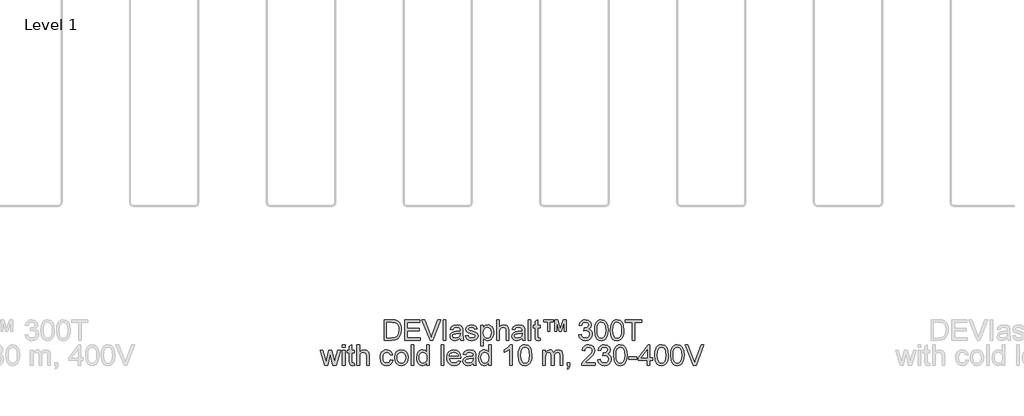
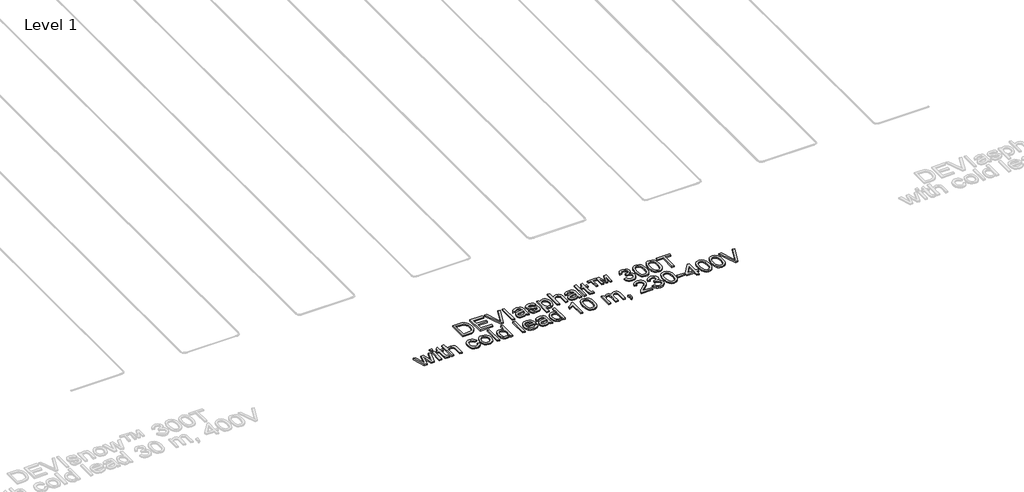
# One storey, part 18 of 26: 1 proxy.
"""IFC4 building model written with IfcOpenShell, lengths in millimetres."""

import ifcopenshell
import ifcopenshell.guid

model = None  # the IFC model being written
_history = None  # IfcOwnerHistory: only IFC2X3 demands one
_inside = {}  # id of a spatial element -> (the spatial element, [elements in it])
_under = {}  # id of a project, library or spatial element -> (it, [spatial elements below it])
_declared = {}  # id of a project -> (the project, [libraries it declares])
_typed = {}  # id of a type object -> (the type object, [elements of that type])
_made_of = {}  # id of a material, layer set ... -> (it, [elements and type objects made of it])


def new_model(schema):
    """Start an empty IFC model of exactly this schema.

    Asked for "IFC4X3", IfcOpenShell would pick the latest addendum, in which some entities
    have other attributes; the version numbers below select the first issue.
    IFC2X3 requires an IfcOwnerHistory on every rooted entity: one is made here for all.
    """
    global model, _history
    if schema == "IFC4X3":
        model = ifcopenshell.file(schema_version=(4, 3, 0, 0))
    else:
        model = ifcopenshell.file(schema=schema)
    _inside.clear()
    _under.clear()
    _declared.clear()
    _typed.clear()
    _made_of.clear()
    _history = None
    if model.schema == "IFC2X3":
        org = make("IfcOrganization", Name="unknown")
        user = make(
            "IfcPersonAndOrganization",
            ThePerson=make("IfcPerson", FamilyName="unknown"),
            TheOrganization=org,
        )
        app = make(
            "IfcApplication",
            ApplicationDeveloper=org,
            Version="unknown",
            ApplicationFullName="unknown",
            ApplicationIdentifier="unknown",
        )
        _history = make(
            "IfcOwnerHistory",
            OwningUser=user,
            OwningApplication=app,
            ChangeAction="ADDED",
            CreationDate=0,
        )
    return model


def make(cls, **values):
    """One entity of the class cls with the attributes given. An attribute that is None is left unset."""
    return model.create_entity(
        cls, **{name: value for name, value in values.items() if value is not None}
    )


def rooted(cls, **values):
    """An entity with a GlobalId (a new one), such as an element, a storey or a relation."""
    return make(cls, GlobalId=ifcopenshell.guid.new(), OwnerHistory=_history, **values)


def si_unit(unit_type, name, prefix=None):
    """IfcSIUnit, for example si_unit("LENGTHUNIT", "METRE", prefix="MILLI")."""
    return make("IfcSIUnit", UnitType=unit_type, Prefix=prefix, Name=name)


def assignment(units):
    """IfcUnitAssignment: the units of a project."""
    return None if units is None else make("IfcUnitAssignment", Units=units)


def point(xyz):
    """IfcCartesianPoint."""
    return None if xyz is None else make("IfcCartesianPoint", Coordinates=xyz)


def direction(xyz):
    """IfcDirection."""
    return None if xyz is None else make("IfcDirection", DirectionRatios=xyz)


def frame(location, z_axis=None, x_axis=None):
    """IfcAxis2Placement3D, a coordinate frame: its origin and axes. An axis left out is left unset."""
    return make(
        "IfcAxis2Placement3D",
        Location=point(location),
        Axis=direction(z_axis),
        RefDirection=direction(x_axis),
    )


def origin():
    """The frame at (0, 0, 0) with its axes left unset."""
    return frame((0.0, 0.0, 0.0))


def origin_with_axes():
    """The frame at (0, 0, 0) with the z axis (0, 0, 1) and the x axis (1, 0, 0) written out."""
    return frame((0.0, 0.0, 0.0), z_axis=(0.0, 0.0, 1.0), x_axis=(1.0, 0.0, 0.0))


def place(relative_to, where):
    """IfcLocalPlacement: puts the frame where relative to a parent placement (None: the world)."""
    return make(
        "IfcLocalPlacement", PlacementRelTo=relative_to, RelativePlacement=where
    )


def context(
    kind, dimensions, precision=None, world=None, true_north=None, identifier=None
):
    """IfcGeometricRepresentationContext, for example the 3D "Model" context."""
    return make(
        "IfcGeometricRepresentationContext",
        ContextIdentifier=identifier,
        ContextType=kind,
        CoordinateSpaceDimension=dimensions,
        Precision=precision,
        WorldCoordinateSystem=world,
        TrueNorth=true_north,
    )


def project(units=None, contexts=None):
    """IfcProject with its units and contexts."""
    return rooted(
        "IfcProject",
        Name="project",
        RepresentationContexts=contexts,
        UnitsInContext=assignment(units),
    )


def spatial(cls, under=None, at=None, **own):
    """A site, building, storey or space (cls), placed at a placement, below another one or the project."""
    s = rooted(cls, ObjectPlacement=at, **own)
    if under is not None:
        _under.setdefault(under.id(), (under, []))[1].append(s)
    return s


def polyline(points):
    """IfcPolyline through the points."""
    return make("IfcPolyline", Points=[point(p) for p in points])


def outline(outer, holes=None, kind="AREA"):
    """IfcArbitraryClosedProfileDef: a profile drawn as a closed curve; with holes, ...WithVoids."""
    if holes is None:
        return make("IfcArbitraryClosedProfileDef", ProfileType=kind, OuterCurve=outer)
    return make(
        "IfcArbitraryProfileDefWithVoids",
        ProfileType=kind,
        OuterCurve=outer,
        InnerCurves=holes,
    )


def extrude(swept, where, along, depth):
    """IfcExtrudedAreaSolid: the profile swept, set in the frame where, extruded along a direction by depth."""
    return make(
        "IfcExtrudedAreaSolid",
        SweptArea=swept,
        Position=where,
        ExtrudedDirection=direction(along),
        Depth=depth,
    )


def shape(context_of_items, identifier, shape_type, items):
    """IfcShapeRepresentation: the items that make up one representation, for example the "Body"."""
    return make(
        "IfcShapeRepresentation",
        ContextOfItems=context_of_items,
        RepresentationIdentifier=identifier,
        RepresentationType=shape_type,
        Items=items,
    )


def made_of(thing, what):
    """Note that an element or type object is made of a material, layer set ...; save() writes the relation."""
    if what is not None:
        _made_of.setdefault(what.id(), (what, []))[1].append(thing)
    return thing


def element(
    cls,
    number,
    at=None,
    inside=None,
    cuts=None,
    type_object=None,
    material=None,
    context=None,
    identifier="Body",
    shape_type=None,
    held_by="IfcProductDefinitionShape",
    body=None,
    shapes=None,
    **own,
):
    """One element of the class cls, such as IfcWall. Its Tag is "e" and its number.

    at: its placement. inside: the storey or other place that contains it. cuts: it is an
    opening in that element (IfcRelVoidsElement). A single representation is given by context,
    identifier, shape_type and body (its items); several are given by shapes. held_by: the class
    of the entity that holds the representations. save() writes the other relations.
    """
    e = rooted(cls, Tag="e%d" % number, ObjectPlacement=at, **own)
    if body is not None:
        shapes = [shape(context, identifier, shape_type, body)]
    if shapes is not None:
        e.Representation = make(held_by, Representations=shapes)
    if inside is not None:
        _inside.setdefault(inside.id(), (inside, []))[1].append(e)
    if cuts is not None:
        rooted(
            "IfcRelVoidsElement", RelatingBuildingElement=cuts, RelatedOpeningElement=e
        )
    if type_object is not None:
        _typed.setdefault(type_object.id(), (type_object, []))[1].append(e)
    return made_of(e, material)


def aggregate(whole, parts):
    """IfcRelAggregates: a whole, such as a stair, and the parts it consists of."""
    return rooted("IfcRelAggregates", RelatingObject=whole, RelatedObjects=parts)


def save(model, path):
    """Write the relations noted so far, then the file.

    IfcRelAggregates (storeys below a building ...), IfcRelContainedInSpatialStructure (elements
    in a storey), IfcRelDefinesByType, IfcRelAssociatesMaterial and IfcRelDeclares: one each for
    every whole, place, type object, material and project.
    """
    for whole, parts in _under.values():
        aggregate(whole, parts)
    for where, things in _inside.values():
        rooted(
            "IfcRelContainedInSpatialStructure",
            RelatedElements=things,
            RelatingStructure=where,
        )
    for kind, things in _typed.values():
        rooted("IfcRelDefinesByType", RelatedObjects=things, RelatingType=kind)
    for what, things in _made_of.values():
        rooted("IfcRelAssociatesMaterial", RelatedObjects=things, RelatingMaterial=what)
    for by, libraries in _declared.values():
        rooted("IfcRelDeclares", RelatingContext=by, RelatedDefinitions=libraries)
    model.write(path)


model = new_model("IFC4")

# Units and contexts
model_context = context("Model", 3, world=origin())
ifc_project = project(units=[si_unit("LENGTHUNIT", "METRE", prefix="MILLI")], contexts=[model_context])

# Site, building, storey
site = spatial("IfcSite", under=ifc_project)
building = spatial("IfcBuilding", under=site)
storey = spatial("IfcBuildingStorey", under=building, Name="Level 1", Elevation=0.0)

# Proxy
placement = place(None, origin())
element("IfcBuildingElementProxy", 1, Name="150mm", ObjectType="150mm", at=placement, inside=storey, context=model_context, shape_type="SweptSolid", body=[
    extrude(outline(polyline([(17271.9779866, -27720.7202), (17271.9779866, -27570.0357347), (17323.9597125, -27570.0357347), (17350.8518863, -27572.2062385), (17372.9983824, -27582.985181), (17383.4186399, -27594.4630992), (17390.8406592, -27608.7369206), (17395.2828343, -27625.5307337), (17396.7635593, -27644.568627), (17392.7536456, -27674.9740739), (17382.4529497, -27696.9182349), (17368.6941631, -27710.585051), (17350.6863394, -27718.145026), (17326.46131, -27720.7202), (17271.9779866, -27720.7202)]), holes=[polyline([(17290.8135447, -27701.8846418), (17324.1436535, -27701.8846418), (17348.387077, -27699.162315), (17362.3665928, -27691.4735813), (17373.8261169, -27672.7667819), (17377.9280012, -27644.2743214), (17375.9184458, -27623.746506), (17369.8897796, -27608.5897678), (17360.9824368, -27598.1787074), (17350.3368515, -27591.8879252), (17323.6286187, -27588.8712929), (17290.8135447, -27588.8712929), (17290.8135447, -27701.8846418)])]), origin_with_axes(), (0.0, 0.0, 1.0), 10.0),
    extrude(outline(polyline([(17422.6624518, -27720.7202), (17422.6624518, -27570.0357347), (17530.9669112, -27570.0357347), (17530.9669112, -27588.8712929), (17441.4980099, -27588.8712929), (17441.4980099, -27633.6057435), (17526.2580216, -27633.6057435), (17526.2580216, -27652.4413017), (17441.4980099, -27652.4413017), (17441.4980099, -27701.8846418), (17533.3213559, -27701.8846418), (17533.3213559, -27720.7202), (17422.6624518, -27720.7202)])), origin_with_axes(), (0.0, 0.0, 1.0), 10.0),
    extrude(outline(polyline([(17606.0884146, -27720.7202), (17546.1236494, -27570.0357347), (17566.2835827, -27570.0357347), (17606.4195084, -27678.5977115), (17614.5497005, -27703.0618642), (17622.569528, -27678.5977115), (17662.8158182, -27570.0357347), (17682.9757516, -27570.0357347), (17625.5493721, -27720.7202), (17606.0884146, -27720.7202)])), origin_with_axes(), (0.0, 0.0, 1.0), 10.0),
    extrude(outline(polyline([(17702.8413793, -27720.7202), (17702.8413793, -27570.0357347), (17721.6769375, -27570.0357347), (17721.6769375, -27720.7202), (17702.8413793, -27720.7202)])), origin_with_axes(), (0.0, 0.0, 1.0), 10.0),
    extrude(outline(polyline([(17827.6269521, -27706.5935313), (17809.361611, -27719.3590366), (17789.1832836, -27723.0746447), (17773.4425327, -27720.8397616), (17761.8312572, -27714.1351122), (17754.6713539, -27703.953978), (17752.2847195, -27691.2896403), (17755.889963, -27676.3904195), (17765.3629244, -27665.5746889), (17778.5514939, -27659.3942714), (17794.8486663, -27656.56158), (17827.5165875, -27650.0868569), (17827.6269521, -27645.8930021), (17826.330168, -27637.4868985), (17822.4398159, -27631.9870627), (17813.7394068, -27627.9035726), (17801.617695, -27626.5424092), (17782.5614077, -27630.1660468), (17773.4747224, -27643.0235226), (17754.6391642, -27640.6690778), (17762.7877504, -27622.274978), (17779.1952874, -27611.4960356), (17804.0457162, -27607.706851), (17826.872794, -27611.0545772), (17839.7670579, -27619.4606808), (17845.5428052, -27632.2445801), (17846.4625102, -27648.7256935), (17846.4625102, -27672.1597766), (17847.4190034, -27704.8828801), (17851.1713998, -27720.7202), (17832.3358416, -27720.7202), (17827.6269521, -27706.5935313)]), holes=[polyline([(17827.6269521, -27668.922415), (17797.2398993, -27674.6981624), (17781.0346974, -27677.7515829), (17773.6954516, -27682.7179899), (17771.1202776, -27689.9652652), (17776.730478, -27700.1555964), (17793.1931973, -27704.2390866), (17812.2494847, -27699.7325321), (17824.5367433, -27688.824831), (17827.5165875, -27674.256704), (17827.6269521, -27668.922415)])]), origin_with_axes(), (0.0, 0.0, 1.0), 10.0),
    extrude(outline(polyline([(17865.2980684, -27687.7579732), (17884.1336265, -27685.4035284), (17887.1042736, -27693.4601441), (17892.8524298, -27699.3830442), (17912.8284222, -27704.2390866), (17932.0318623, -27699.7877144), (17938.2858562, -27689.3398658), (17936.7131607, -27684.5390057), (17931.9950741, -27680.8785799), (17912.607693, -27675.5075028), (17884.2439911, -27666.2920588), (17871.864762, -27655.5315104), (17867.6525131, -27640.337984), (17871.0370275, -27626.3032859), (17880.2708656, -27615.5795257), (17892.2454245, -27610.0061135), (17908.4506264, -27607.706851), (17931.3696747, -27611.4040651), (17945.9378017, -27621.4104554), (17952.4125248, -27638.314633), (17933.5769667, -27640.6690778), (17926.4952383, -27630.2764114), (17909.9221544, -27626.5424092), (17891.8959366, -27630.1108645), (17886.4880713, -27638.4249976), (17888.7321515, -27643.9064394), (17895.7586976, -27648.0635059), (17911.9822936, -27652.0734197), (17939.6286255, -27660.9393757), (17952.4677071, -27670.9825542), (17957.1214144, -27687.353303), (17951.6583667, -27705.3795208), (17935.8946233, -27718.4577257), (17912.5709048, -27723.0746447), (17893.5789968, -27720.8489587), (17879.7190426, -27714.1719004), (17870.4668104, -27703.1170465), (17865.2980684, -27687.7579732)])), origin_with_axes(), (0.0, 0.0, 1.0), 10.0),
    extrude(outline(polyline([(17978.3114173, -27763.1002058), (17978.3114173, -27610.0612958), (17997.1469755, -27610.0612958), (17997.1469755, -27628.528972), (18010.1699981, -27612.9123813), (18027.7547575, -27607.706851), (18040.4926715, -27609.5278669), (18051.6302989, -27614.9909145), (18060.6985901, -27623.7649001), (18067.2284955, -27635.5187299), (18072.4892081, -27664.5446193), (18071.0038845, -27680.6532522), (18066.5479138, -27695.0604308), (18059.2638503, -27707.0349897), (18049.2942483, -27715.8457635), (18037.6829728, -27721.2674244), (18025.4738891, -27723.0746447), (18009.0847462, -27718.2369965), (17997.1469755, -27706.0049202), (17997.1469755, -27763.1002058), (17978.3114173, -27763.1002058)]), holes=[polyline([(17997.1469755, -27666.2736647), (17999.184122, -27683.1594483), (18005.2955616, -27694.9684603), (18014.3132691, -27701.92143), (18025.0692189, -27704.2390866), (18035.9999127, -27701.8386566), (18045.2475463, -27694.6373665), (18051.552124, -27682.3960931), (18053.6536499, -27664.8757131), (18051.6027078, -27648.0819), (18045.4498814, -27636.1073411), (18036.4459696, -27628.9336422), (18025.8417711, -27626.5424092), (18015.1961858, -27629.0853935), (18005.8473846, -27636.7143464), (17999.3220777, -27649.1901445), (17997.1469755, -27666.2736647)])]), origin_with_axes(), (0.0, 0.0, 1.0), 10.0),
    extrude(outline(polyline([(18093.679211, -27720.7202), (18093.679211, -27570.0357347), (18112.5147691, -27570.0357347), (18112.5147691, -27625.4387632), (18127.2024578, -27612.1398291), (18145.2930549, -27607.706851), (18166.4462696, -27612.5444993), (18179.2853513, -27625.9170098), (18183.1481122, -27650.6754681), (18183.1481122, -27720.7202), (18164.3125541, -27720.7202), (18164.3125541, -27652.6252427), (18162.8134349, -27640.8346247), (18158.3160775, -27632.7596149), (18151.0688022, -27628.0967106), (18141.3199294, -27626.5424092), (18125.8872797, -27630.7362639), (18115.5865838, -27642.1038176), (18112.5147691, -27661.9326571), (18112.5147691, -27720.7202), (18093.679211, -27720.7202)])), origin_with_axes(), (0.0, 0.0, 1.0), 10.0),
    extrude(outline(polyline([(18279.6803477, -27706.5935313), (18261.4150067, -27719.3590366), (18241.2366793, -27723.0746447), (18225.4959284, -27720.8397616), (18213.8846529, -27714.1351122), (18206.7247496, -27703.953978), (18204.3381151, -27691.2896403), (18207.9433587, -27676.3904195), (18217.4163201, -27665.5746889), (18230.6048896, -27659.3942714), (18246.902062, -27656.56158), (18279.5699831, -27650.0868569), (18279.6803477, -27645.8930021), (18278.3835637, -27637.4868985), (18274.4932116, -27631.9870627), (18265.7928024, -27627.9035726), (18253.6710907, -27626.5424092), (18234.6148033, -27630.1660468), (18225.5281181, -27643.0235226), (18206.6925599, -27640.6690778), (18214.8411461, -27622.274978), (18231.2486831, -27611.4960356), (18256.0991119, -27607.706851), (18278.9261897, -27611.0545772), (18291.8204536, -27619.4606808), (18297.5962009, -27632.2445801), (18298.5159059, -27648.7256935), (18298.5159059, -27672.1597766), (18299.4723991, -27704.8828801), (18303.2247954, -27720.7202), (18284.3892373, -27720.7202), (18279.6803477, -27706.5935313)]), holes=[polyline([(18279.6803477, -27668.922415), (18249.2932949, -27674.6981624), (18233.0880931, -27677.7515829), (18225.7488473, -27682.7179899), (18223.1736733, -27689.9652652), (18228.7838737, -27700.1555964), (18245.246593, -27704.2390866), (18264.3028803, -27699.7325321), (18276.590139, -27688.824831), (18279.5699831, -27674.256704), (18279.6803477, -27668.922415)])]), origin_with_axes(), (0.0, 0.0, 1.0), 10.0),
    extrude(outline(polyline([(18324.4147984, -27720.7202), (18324.4147984, -27570.0357347), (18343.2503565, -27570.0357347), (18343.2503565, -27720.7202), (18324.4147984, -27720.7202)])), origin_with_axes(), (0.0, 0.0, 1.0), 10.0),
    extrude(outline(polyline([(18411.5292548, -27705.0116388), (18413.8836996, -27721.272023), (18399.7938192, -27723.0746447), (18384.0116816, -27719.9476478), (18376.1390069, -27711.7438793), (18373.8581385, -27690.3699354), (18373.8581385, -27628.896854), (18359.7314699, -27628.896854), (18359.7314699, -27610.0612958), (18373.8581385, -27610.0612958), (18373.8581385, -27583.169122), (18392.6936967, -27572.0958739), (18392.6936967, -27610.0612958), (18411.5292548, -27610.0612958), (18411.5292548, -27628.896854), (18392.6936967, -27628.896854), (18392.6936967, -27689.8181124), (18393.6869781, -27699.530197), (18396.9059455, -27702.9698937), (18403.3254863, -27704.2390866), (18411.5292548, -27705.0116388)])), origin_with_axes(), (0.0, 0.0, 1.0), 10.0),
    extrude(outline(polyline([(18465.6814845, -27654.7957464), (18465.6814845, -27584.1624033), (18437.4281473, -27584.1624033), (18437.4281473, -27570.0357347), (18508.0614904, -27570.0357347), (18508.0614904, -27584.1624033), (18479.8081531, -27584.1624033), (18479.8081531, -27654.7957464), (18465.6814845, -27654.7957464)])), origin_with_axes(), (0.0, 0.0, 1.0), 10.0),
    extrude(outline(polyline([(18517.4792694, -27654.7957464), (18517.4792694, -27570.0357347), (18538.3749668, -27570.0357347), (18559.9328517, -27638.0939038), (18581.2332192, -27570.0357347), (18602.2392811, -27570.0357347), (18602.2392811, -27654.7957464), (18588.1126125, -27654.7957464), (18588.1126125, -27585.1924729), (18566.9226096, -27654.7957464), (18552.795941, -27654.7957464), (18531.605938, -27584.1624033), (18531.605938, -27654.7957464), (18517.4792694, -27654.7957464)])), origin_with_axes(), (0.0, 0.0, 1.0), 10.0),
    extrude(outline(polyline([(18694.0626271, -27680.6946389), (18712.8981853, -27678.3401941), (18717.1150326, -27690.1767973), (18723.2908516, -27698.1690337), (18731.7291449, -27702.7215733), (18742.7334151, -27704.2390866), (18755.6460731, -27702.1513563), (18765.6156752, -27695.8881653), (18771.9892307, -27686.5439626), (18774.1137493, -27675.2131972), (18772.0076248, -27664.4572473), (18765.6892516, -27655.7338455), (18756.1243197, -27649.9534997), (18744.2785195, -27648.0267177), (18731.0715558, -27650.0868569), (18733.1684832, -27631.2512987), (18736.1851156, -27631.4720279), (18757.5590595, -27626.0641626), (18764.6775761, -27619.2031634), (18767.050415, -27609.4358964), (18765.3305666, -27601.3011058), (18760.1710216, -27594.7022225), (18752.298347, -27590.3290253), (18742.4391095, -27588.8712929), (18732.5614779, -27590.3428209), (18724.4864681, -27594.7574048), (18718.5911591, -27602.1150447), (18715.25263, -27612.4157406), (18696.4170719, -27610.0612958), (18701.962893, -27593.1479211), (18711.8313275, -27580.5203716), (18725.3325967, -27572.6568939), (18741.7769219, -27570.0357347), (18764.4936351, -27575.2044768), (18780.3861373, -27589.3311454), (18785.8859731, -27608.3322504), (18780.6620488, -27625.6962806), (18765.211005, -27638.1674802), (18777.0016229, -27642.9315521), (18785.7388203, -27651.0433501), (18791.1466856, -27662.0614158), (18792.9493074, -27675.544291), (18789.3440639, -27693.9016025), (18778.5283332, -27709.2422817), (18762.2035697, -27719.616554), (18742.0712275, -27723.0746447), (18723.8610687, -27720.1223917), (18709.0354243, -27711.2656327), (18698.7255314, -27697.7183782), (18694.0626271, -27680.6946389)])), origin_with_axes(), (0.0, 0.0, 1.0), 10.0),
    extrude(outline(polyline([(18809.4304208, -27646.5919779), (18810.8145768, -27622.4727146), (18814.9670448, -27603.2370848), (18821.8464381, -27588.5907829), (18831.41137, -27578.2395032), (18843.7308183, -27572.0866769), (18858.873761, -27570.0357347), (18880.8731043, -27574.8917771), (18896.0666307, -27588.889687), (18904.8957986, -27611.1833359), (18908.3171011, -27646.5919779), (18906.9467407, -27670.5732855), (18902.8356594, -27689.7629301), (18895.9976528, -27704.4230276), (18886.4465165, -27714.8156939), (18874.099477, -27721.009907), (18858.873761, -27723.0746447), (18839.3024388, -27719.4877953), (18824.4400062, -27708.7272469), (18813.1828172, -27683.2422217), (18809.4304208, -27646.5919779)]), holes=[polyline([(18828.265979, -27646.5551897), (18830.4732709, -27676.1834859), (18837.0951468, -27693.3313854), (18846.9543843, -27701.5121613), (18858.873761, -27704.2390866), (18870.7931376, -27701.5029642), (18880.6523751, -27693.2945972), (18887.274251, -27676.1375007), (18889.481543, -27646.5551897), (18887.3478274, -27617.5936797), (18880.9466807, -27600.3124229), (18871.1058373, -27591.7315754), (18858.6530318, -27588.8712929), (18846.8624138, -27591.3912846), (18837.3894524, -27598.9512596), (18830.5468473, -27617.3085711), (18828.265979, -27646.5551897)])]), origin_with_axes(), (0.0, 0.0, 1.0), 10.0),
    extrude(outline(polyline([(18924.7982145, -27646.5919779), (18926.1823705, -27622.4727146), (18930.3348385, -27603.2370848), (18937.2142318, -27588.5907829), (18946.7791637, -27578.2395032), (18959.098612, -27572.0866769), (18974.2415546, -27570.0357347), (18996.240898, -27574.8917771), (19011.4344244, -27588.889687), (19020.2635922, -27611.1833359), (19023.6848948, -27646.5919779), (19022.3145344, -27670.5732855), (19018.2034531, -27689.7629301), (19011.3654465, -27704.4230276), (19001.8143102, -27714.8156939), (18989.4672707, -27721.009907), (18974.2415546, -27723.0746447), (18954.6702325, -27719.4877953), (18939.8077999, -27708.7272469), (18928.5506108, -27683.2422217), (18924.7982145, -27646.5919779)]), holes=[polyline([(18943.6337726, -27646.5551897), (18945.8410646, -27676.1834859), (18952.4629405, -27693.3313854), (18962.322178, -27701.5121613), (18974.2415546, -27704.2390866), (18986.1609313, -27701.5029642), (18996.0201688, -27693.2945972), (19002.6420447, -27676.1375007), (19004.8493366, -27646.5551897), (19002.7156211, -27617.5936797), (18996.3144744, -27600.3124229), (18986.473631, -27591.7315754), (18974.0208254, -27588.8712929), (18962.2302075, -27591.3912846), (18952.7572461, -27598.9512596), (18945.914641, -27617.3085711), (18943.6337726, -27646.5551897)])]), origin_with_axes(), (0.0, 0.0, 1.0), 10.0),
    extrude(outline(polyline([(19084.9004588, -27720.7202), (19084.9004588, -27588.8712929), (19035.4571186, -27588.8712929), (19035.4571186, -27570.0357347), (19153.1793571, -27570.0357347), (19153.1793571, -27588.8712929), (19103.7360169, -27588.8712929), (19103.7360169, -27720.7202), (19084.9004588, -27720.7202)])), origin_with_axes(), (0.0, 0.0, 1.0), 10.0),
    extrude(outline(polyline([(16835.9274577, -27903.6824267), (16802.2662551, -27793.0235226), (16821.8375773, -27793.0235226), (16840.9306528, -27857.5868127), (16846.6328237, -27880.6530138), (16851.3049251, -27858.4329413), (16866.4984515, -27793.0235226), (16888.9392532, -27793.0235226), (16904.0592032, -27858.2490003), (16908.2162697, -27878.3721455), (16914.1759581, -27857.1453543), (16933.3058218, -27793.0235226), (16952.9507203, -27793.0235226), (16919.0320004, -27903.6824267), (16896.2601049, -27903.6824267), (16881.8023425, -27838.7880428), (16877.6084877, -27818.554533), (16858.9568706, -27903.6824267), (16835.9274577, -27903.6824267)])), origin_with_axes(), (0.0, 0.0, 1.0), 10.0),
    extrude(outline(polyline([(16965.9001666, -27771.8335197), (16965.9001666, -27752.9979615), (16984.7357247, -27752.9979615), (16984.7357247, -27771.8335197), (16965.9001666, -27771.8335197)])), origin_with_axes(), (0.0, 0.0, 1.0), 10.0),
    extrude(outline(polyline([(16965.9001666, -27903.6824267), (16965.9001666, -27793.0235226), (16984.7357247, -27793.0235226), (16984.7357247, -27903.6824267), (16965.9001666, -27903.6824267)])), origin_with_axes(), (0.0, 0.0, 1.0), 10.0),
    extrude(outline(polyline([(17053.014623, -27887.9738655), (17055.3690678, -27904.2342497), (17041.2791874, -27906.0368715), (17025.4970498, -27902.9098745), (17017.6243751, -27894.706106), (17015.3435067, -27873.3321621), (17015.3435067, -27811.8590807), (17001.2168381, -27811.8590807), (17001.2168381, -27793.0235226), (17015.3435067, -27793.0235226), (17015.3435067, -27766.1313487), (17034.1790649, -27755.0581007), (17034.1790649, -27793.0235226), (17053.014623, -27793.0235226), (17053.014623, -27811.8590807), (17034.1790649, -27811.8590807), (17034.1790649, -27872.7803391), (17035.1723463, -27882.4924238), (17038.3913137, -27885.9321205), (17044.8108545, -27887.2013133), (17053.014623, -27887.9738655)])), origin_with_axes(), (0.0, 0.0, 1.0), 10.0),
    extrude(outline(polyline([(17071.8501812, -27903.6824267), (17071.8501812, -27752.9979615), (17090.6857393, -27752.9979615), (17090.6857393, -27808.40099), (17105.373428, -27795.1020558), (17123.4640251, -27790.6690778), (17144.6172398, -27795.506726), (17157.4563215, -27808.8792366), (17161.3190824, -27833.6376948), (17161.3190824, -27903.6824267), (17142.4835243, -27903.6824267), (17142.4835243, -27835.5874694), (17140.9844051, -27823.7968515), (17136.4870477, -27815.7218417), (17129.2397724, -27811.0589374), (17119.4908996, -27809.504636), (17104.0582499, -27813.6984907), (17093.757554, -27825.0660444), (17090.6857393, -27844.8948839), (17090.6857393, -27903.6824267), (17071.8501812, -27903.6824267)])), origin_with_axes(), (0.0, 0.0, 1.0), 10.0),
    extrude(outline(polyline([(17316.7124372, -27863.6568657), (17335.5479953, -27866.0113104), (17330.2964798, -27882.7637368), (17320.4280453, -27895.4234759), (17306.8715938, -27903.3835226), (17290.5560273, -27906.0368715), (17270.5202542, -27902.3350589), (17254.8530797, -27891.2296212), (17244.7409233, -27873.208002), (17241.3702046, -27848.7576448), (17242.8095429, -27831.9960214), (17247.1275578, -27817.4692812), (17254.3932272, -27805.738444), (17264.675529, -27797.3645301), (17276.9765832, -27792.3429409), (17290.2985099, -27790.6690778), (17306.2140047, -27792.9683403), (17318.9381232, -27799.8661277), (17328.0661952, -27810.994558), (17333.1935506, -27825.9857493), (17314.3579924, -27828.3401941), (17305.620795, -27814.2319196), (17290.4456627, -27809.504636), (17278.2733672, -27811.8314896), (17268.6118663, -27818.8120504), (17262.3072886, -27830.8233976), (17260.2057627, -27848.2426101), (17262.2613034, -27865.8963473), (17268.4279253, -27877.9490812), (17277.9146823, -27884.8882553), (17289.9306279, -27887.2013133), (17299.6840993, -27885.7573765), (17307.6809342, -27881.425566), (17313.4980682, -27874.0955173), (17316.7124372, -27863.6568657)])), origin_with_axes(), (0.0, 0.0, 1.0), 10.0),
    extrude(outline(polyline([(17347.3202192, -27848.3529747), (17351.3945123, -27821.672333), (17363.6173916, -27802.9195482), (17378.7189475, -27793.7316954), (17396.8003475, -27790.6690778), (17416.5878003, -27794.3984815), (17432.3929306, -27805.5866927), (17442.7534072, -27823.3507946), (17446.2068995, -27846.8078703), (17444.6801892, -27865.8365665), (17440.1000584, -27880.32192), (17432.5998642, -27891.1698404), (17422.3129639, -27899.2862369), (17410.0946831, -27904.3492128), (17396.8003475, -27906.0368715), (17376.7737714, -27902.3212633), (17360.9870353, -27891.1744389), (17350.7369232, -27873.0378565), (17347.3202192, -27848.3529747)]), holes=[polyline([(17366.1557773, -27848.3161865), (17368.3354781, -27865.3629184), (17374.8745806, -27877.5076228), (17384.715424, -27884.7778907), (17396.8003475, -27887.2013133), (17408.8300888, -27884.7640951), (17418.652538, -27877.4524405), (17425.1916405, -27865.1467877), (17427.3713413, -27847.7275753), (17425.1778449, -27831.177484), (17418.5973557, -27819.1983265), (17408.7611109, -27811.9280586), (17396.8003475, -27809.504636), (17384.715424, -27811.9188616), (17374.8745806, -27819.1615383), (17368.3354781, -27831.2786516), (17366.1557773, -27848.3161865)])]), origin_with_axes(), (0.0, 0.0, 1.0), 10.0),
    extrude(outline(polyline([(17467.3969024, -27903.6824267), (17467.3969024, -27752.9979615), (17486.2324606, -27752.9979615), (17486.2324606, -27903.6824267), (17467.3969024, -27903.6824267)])), origin_with_axes(), (0.0, 0.0, 1.0), 10.0),
    extrude(outline(polyline([(17582.7646961, -27903.6824267), (17582.7646961, -27885.9137264), (17570.3026935, -27901.0060852), (17553.0766191, -27906.0368715), (17540.899725, -27904.2158556), (17529.7529006, -27898.752808), (17520.3167274, -27890.0294062), (17513.2717872, -27878.4273278), (17508.8847944, -27864.4156223), (17507.4224635, -27848.4633392), (17512.8119347, -27818.4809566), (17519.5441752, -27806.5891711), (17528.9619543, -27797.8427767), (17540.3525006, -27792.4625025), (17553.0030427, -27790.6690778), (17570.3670728, -27795.8010316), (17582.7646961, -27809.136754), (17582.7646961, -27752.9979615), (17601.6002542, -27752.9979615), (17601.6002542, -27903.6824267), (17582.7646961, -27903.6824267)]), holes=[polyline([(17526.2580216, -27848.3897629), (17528.3825401, -27865.4272978), (17534.7560957, -27877.544411), (17544.0175249, -27884.7870877), (17554.8056645, -27887.2013133), (17565.5892054, -27884.8974523), (17574.6161099, -27877.9858694), (17580.7275495, -27866.3378057), (17582.7646961, -27849.8245026), (17580.6907613, -27831.7706937), (17574.4689571, -27819.2535088), (17565.2121264, -27811.9418542), (17554.0331123, -27809.504636), (17543.1346082, -27811.8452852), (17534.2042727, -27818.8672327), (17528.2445844, -27830.9291637), (17526.2580216, -27848.3897629)])]), origin_with_axes(), (0.0, 0.0, 1.0), 10.0),
    extrude(outline(polyline([(17688.7147107, -27903.6824267), (17688.7147107, -27752.9979615), (17707.5502688, -27752.9979615), (17707.5502688, -27903.6824267), (17688.7147107, -27903.6824267)])), origin_with_axes(), (0.0, 0.0, 1.0), 10.0),
    extrude(outline(polyline([(17813.2795543, -27870.7202), (17831.7472304, -27873.0746447), (17825.0931648, -27886.9897812), (17814.4751707, -27897.3916446), (17800.1323715, -27903.8755648), (17782.3038903, -27906.0368715), (17760.2033794, -27902.3074678), (17743.1980342, -27891.1192566), (17732.3547124, -27873.1988049), (17728.7402718, -27849.2726796), (17732.3915006, -27824.5418125), (17743.345187, -27806.0465452), (17760.120606, -27794.5134447), (17781.2370325, -27790.6690778), (17801.6958699, -27794.5042476), (17818.0436261, -27806.009757), (17828.7627877, -27824.4682361), (17832.3358416, -27849.162315), (17832.225477, -27854.2390866), (17747.5758299, -27854.2390866), (17750.8361841, -27868.338164), (17758.4099547, -27878.7032393), (17769.3406485, -27885.0767948), (17782.6717723, -27887.2013133), (17801.1394484, -27883.264976), (17813.2795543, -27870.7202)]), holes=[polyline([(17747.5758299, -27835.4035284), (17813.5002835, -27835.4035284), (17810.9527006, -27825.4523205), (17805.9587026, -27818.3338038), (17794.977425, -27811.7119279), (17781.1634561, -27809.504636), (17768.4669287, -27811.265871), (17757.9684963, -27816.5495762), (17750.6706372, -27824.7855343), (17747.5758299, -27835.4035284)])]), origin_with_axes(), (0.0, 0.0, 1.0), 10.0),
    extrude(outline(polyline([(17921.8047428, -27889.5557581), (17903.5394018, -27902.3212633), (17883.3610743, -27906.0368715), (17867.6203235, -27903.8019884), (17856.009048, -27897.097339), (17848.8491447, -27886.9162048), (17846.4625102, -27874.2518671), (17850.0677538, -27859.3526463), (17859.5407152, -27848.5369156), (17872.7292847, -27842.3564981), (17889.0264571, -27839.5238068), (17921.6943782, -27833.0490837), (17921.8047428, -27828.8552289), (17920.5079588, -27820.4491253), (17916.6176067, -27814.9492895), (17907.9171975, -27810.8657993), (17895.7954858, -27809.504636), (17876.7391984, -27813.1282736), (17867.6525131, -27825.9857493), (17848.816955, -27823.6313046), (17856.9655412, -27805.2372048), (17873.3730782, -27794.4582624), (17898.2235069, -27790.6690778), (17921.0505847, -27794.016804), (17933.9448487, -27802.4229076), (17939.720596, -27815.2068069), (17940.640301, -27831.6879203), (17940.640301, -27855.1220034), (17941.5967942, -27887.8451068), (17945.3491905, -27903.6824267), (17926.5136324, -27903.6824267), (17921.8047428, -27889.5557581)]), holes=[polyline([(17921.8047428, -27851.8846418), (17891.41769, -27857.6603891), (17875.2124882, -27860.7138097), (17867.8732423, -27865.6802166), (17865.2980684, -27872.9274919), (17870.9082688, -27883.1178232), (17887.3709881, -27887.2013133), (17906.4272754, -27882.6947589), (17918.7145341, -27871.7870577), (17921.6943782, -27857.2189307), (17921.8047428, -27851.8846418)])]), origin_with_axes(), (0.0, 0.0, 1.0), 10.0),
    extrude(outline(polyline([(18034.8180918, -27903.6824267), (18034.8180918, -27885.9137264), (18022.3560892, -27901.0060852), (18005.1300147, -27906.0368715), (17992.9531207, -27904.2158556), (17981.8062963, -27898.752808), (17972.3701231, -27890.0294062), (17965.3251829, -27878.4273278), (17960.9381901, -27864.4156223), (17959.4758591, -27848.4633392), (17964.8653304, -27818.4809566), (17971.5975709, -27806.5891711), (17981.01535, -27797.8427767), (17992.4058962, -27792.4625025), (18005.0564383, -27790.6690778), (18022.4204685, -27795.8010316), (18034.8180918, -27809.136754), (18034.8180918, -27752.9979615), (18053.6536499, -27752.9979615), (18053.6536499, -27903.6824267), (18034.8180918, -27903.6824267)]), holes=[polyline([(17978.3114173, -27848.3897629), (17980.4359358, -27865.4272978), (17986.8094914, -27877.544411), (17996.0709206, -27884.7870877), (18006.8590601, -27887.2013133), (18017.6426011, -27884.8974523), (18026.6695056, -27877.9858694), (18032.7809452, -27866.3378057), (18034.8180918, -27849.8245026), (18032.744157, -27831.7706937), (18026.5223528, -27819.2535088), (18017.2655221, -27811.9418542), (18006.0865079, -27809.504636), (17995.1880038, -27811.8452852), (17986.2576684, -27818.8672327), (17980.2979801, -27830.9291637), (17978.3114173, -27848.3897629)])]), origin_with_axes(), (0.0, 0.0, 1.0), 10.0),
    extrude(outline(polyline([(18206.6925599, -27903.6824267), (18187.8570018, -27903.6824267), (18187.8570018, -27786.2544939), (18170.014725, -27798.9648168), (18150.1858854, -27808.4745664), (18150.1858854, -27790.6690778), (18177.7954292, -27773.0475302), (18194.5524541, -27752.9979615), (18206.6925599, -27752.9979615), (18206.6925599, -27903.6824267)])), origin_with_axes(), (0.0, 0.0, 1.0), 10.0),
    extrude(outline(polyline([(18251.4270105, -27829.5542047), (18252.8111665, -27805.4349414), (18256.9636345, -27786.1993116), (18263.8430279, -27771.5530096), (18273.4079597, -27761.20173), (18285.727408, -27755.0489036), (18300.8703507, -27752.9979615), (18322.869694, -27757.8540038), (18338.0632204, -27771.8519138), (18346.8923883, -27794.1455627), (18350.3136908, -27829.5542047), (18348.9433304, -27853.5355123), (18344.8322491, -27872.7251568), (18337.9942425, -27887.3852543), (18328.4431062, -27897.7779207), (18316.0960667, -27903.9721338), (18300.8703507, -27906.0368715), (18281.2990285, -27902.450022), (18266.4365959, -27891.6894737), (18255.1794069, -27866.2044485), (18251.4270105, -27829.5542047)]), holes=[polyline([(18270.2625687, -27829.5174165), (18272.4698606, -27859.1457127), (18279.0917366, -27876.2936122), (18288.950974, -27884.4743881), (18300.8703507, -27887.2013133), (18312.7897273, -27884.465191), (18322.6489648, -27876.256824), (18329.2708407, -27859.0997274), (18331.4781327, -27829.5174165), (18329.3444171, -27800.5559064), (18322.9432704, -27783.2746497), (18313.102427, -27774.6938022), (18300.6496215, -27771.8335197), (18288.8590035, -27774.3535113), (18279.3860422, -27781.9134863), (18272.543437, -27800.2707979), (18270.2625687, -27829.5174165)])]), origin_with_axes(), (0.0, 0.0, 1.0), 10.0),
    extrude(outline(polyline([(18430.364813, -27903.6824267), (18430.364813, -27793.0235226), (18449.2003711, -27793.0235226), (18449.2003711, -27811.2336813), (18462.1498174, -27796.3160664), (18480.5807053, -27790.6690778), (18491.0561451, -27792.1084161), (18499.4530517, -27796.426431), (18509.8273239, -27812.5580565), (18524.5242096, -27796.1413225), (18543.0838563, -27790.6690778), (18557.2427146, -27792.9453477), (18567.7135559, -27799.7741572), (18574.1836805, -27811.3394474), (18576.3403887, -27827.8251593), (18576.3403887, -27903.6824267), (18557.5048305, -27903.6824267), (18557.5048305, -27835.9185632), (18555.757391, -27820.1916079), (18549.4298207, -27812.4476919), (18538.6692724, -27809.504636), (18528.4651455, -27811.3900312), (18520.1464139, -27817.0462169), (18514.6143884, -27826.8594691), (18512.7703799, -27841.2160639), (18512.7703799, -27903.6824267), (18493.9348217, -27903.6824267), (18493.9348217, -27833.8216358), (18489.5754201, -27815.5746889), (18483.8226654, -27811.0221492), (18475.2832046, -27809.504636), (18461.340477, -27813.5513379), (18452.0698507, -27825.3971382), (18449.2003711, -27847.8747281), (18449.2003711, -27903.6824267), (18430.364813, -27903.6824267)])), origin_with_axes(), (0.0, 0.0, 1.0), 10.0),
    extrude(outline(polyline([(18609.3026154, -27903.6824267), (18609.3026154, -27884.8468686), (18628.1381736, -27884.8468686), (18628.1381736, -27903.6824267), (18624.7536592, -27922.9410492), (18614.011505, -27934.2902087), (18609.3026154, -27927.2268744), (18616.2187969, -27919.0966823), (18618.6836063, -27903.6824267), (18609.3026154, -27903.6824267)])), origin_with_axes(), (0.0, 0.0, 1.0), 10.0),
    extrude(outline(polyline([(18814.1393103, -27884.8468686), (18814.1393103, -27903.6824267), (18715.25263, -27903.6824267), (18717.275981, -27890.6961923), (18728.7171111, -27870.7018059), (18752.298347, -27848.8680094), (18784.8191153, -27817.4876753), (18790.9167594, -27806.6719446), (18792.9493074, -27796.1505195), (18791.0317225, -27786.7189449), (18785.2789678, -27778.8784599), (18776.4360044, -27773.5947547), (18765.2477932, -27771.8335197), (18753.498562, -27773.553368), (18744.37049, -27778.712913), (18738.4797795, -27786.9074844), (18736.442633, -27797.7324121), (18717.6070748, -27795.3779673), (18722.1734101, -27777.1586115), (18732.0464431, -27763.8504804), (18746.7111391, -27755.7110912), (18765.6524634, -27752.9979615), (18784.7317434, -27756.0145939), (18799.3688482, -27765.0644909), (18808.6808612, -27778.5841543), (18811.7848656, -27795.0100854), (18808.4371394, -27812.8707562), (18797.3087091, -27831.3384324), (18770.3245647, -27857.1453543), (18748.6563152, -27875.2635426), (18740.1582411, -27884.8468686), (18814.1393103, -27884.8468686)])), origin_with_axes(), (0.0, 0.0, 1.0), 10.0),
    extrude(outline(polyline([(18832.9748685, -27863.6568657), (18851.8104266, -27861.3024209), (18856.027274, -27873.1390241), (18862.203093, -27881.1312604), (18870.6413863, -27885.6838001), (18881.6456565, -27887.2013133), (18894.5583145, -27885.113583), (18904.5279166, -27878.8503921), (18910.9014721, -27869.5061894), (18913.0259906, -27858.1754239), (18910.9198662, -27847.4194741), (18904.601493, -27838.6960723), (18895.0365611, -27832.9157264), (18883.1907608, -27830.9889445), (18869.9837972, -27833.0490837), (18872.0807246, -27814.2135255), (18875.0973569, -27814.4342547), (18896.4713009, -27809.0263894), (18903.5898175, -27802.1653902), (18905.9626563, -27792.3981232), (18904.242808, -27784.2633326), (18899.083263, -27777.6644493), (18891.2105883, -27773.2912521), (18881.3513509, -27771.8335197), (18871.4737193, -27773.3050476), (18863.3987095, -27777.7196316), (18857.5034005, -27785.0772715), (18854.1648714, -27795.3779673), (18835.3293133, -27793.0235226), (18840.8751343, -27776.1101478), (18850.7435689, -27763.4825984), (18864.2448381, -27755.6191207), (18880.6891633, -27752.9979615), (18903.4058765, -27758.1667035), (18919.2983787, -27772.2933721), (18924.7982145, -27791.2944772), (18919.5742902, -27808.6585074), (18904.1232464, -27821.129707), (18915.9138643, -27825.8937788), (18924.6510617, -27834.0055768), (18930.058927, -27845.0236426), (18931.8615488, -27858.5065177), (18928.2563052, -27876.8638293), (18917.4405746, -27892.2045085), (18901.115811, -27902.5787807), (18880.9834689, -27906.0368715), (18862.7733101, -27903.0846185), (18847.9476657, -27894.2278594), (18837.6377728, -27880.680605), (18832.9748685, -27863.6568657)])), origin_with_axes(), (0.0, 0.0, 1.0), 10.0),
    extrude(outline(polyline([(18948.3426622, -27829.5542047), (18949.7268182, -27805.4349414), (18953.8792862, -27786.1993116), (18960.7586795, -27771.5530096), (18970.3236114, -27761.20173), (18982.6430597, -27755.0489036), (18997.7860023, -27752.9979615), (19019.7853456, -27757.8540038), (19034.978872, -27771.8519138), (19043.8080399, -27794.1455627), (19047.2293425, -27829.5542047), (19045.8589821, -27853.5355123), (19041.7479008, -27872.7251568), (19034.9098942, -27887.3852543), (19025.3587579, -27897.7779207), (19013.0117184, -27903.9721338), (18997.7860023, -27906.0368715), (18978.2146802, -27902.450022), (18963.3522476, -27891.6894737), (18952.0950585, -27866.2044485), (18948.3426622, -27829.5542047)]), holes=[polyline([(18967.1782203, -27829.5174165), (18969.3855123, -27859.1457127), (18976.0073882, -27876.2936122), (18985.8666257, -27884.4743881), (18997.7860023, -27887.2013133), (19009.705379, -27884.465191), (19019.5646164, -27876.256824), (19026.1864924, -27859.0997274), (19028.3937843, -27829.5174165), (19026.2600688, -27800.5559064), (19019.858922, -27783.2746497), (19010.0180787, -27774.6938022), (18997.5652731, -27771.8335197), (18985.7746552, -27774.3535113), (18976.3016938, -27781.9134863), (18969.4590887, -27800.2707979), (18967.1782203, -27829.5174165)])]), origin_with_axes(), (0.0, 0.0, 1.0), 10.0),
    extrude(outline(polyline([(19059.0015663, -27858.9479761), (19059.0015663, -27840.112418), (19117.8626856, -27840.112418), (19117.8626856, -27858.9479761), (19059.0015663, -27858.9479761)])), origin_with_axes(), (0.0, 0.0, 1.0), 10.0),
    extrude(outline(polyline([(19195.5593629, -27903.6824267), (19195.5593629, -27868.3657552), (19127.2804646, -27868.3657552), (19127.2804646, -27849.530197), (19200.2682525, -27755.3524063), (19214.3949211, -27755.3524063), (19214.3949211, -27849.530197), (19233.2304792, -27849.530197), (19233.2304792, -27868.3657552), (19214.3949211, -27868.3657552), (19214.3949211, -27903.6824267), (19195.5593629, -27903.6824267)]), holes=[polyline([(19195.5593629, -27849.530197), (19195.5593629, -27791.3312654), (19150.4570303, -27849.530197), (19195.5593629, -27849.530197)])]), origin_with_axes(), (0.0, 0.0, 1.0), 10.0),
    extrude(outline(polyline([(19249.7115926, -27829.5542047), (19251.0957486, -27805.4349414), (19255.2482167, -27786.1993116), (19262.12761, -27771.5530096), (19271.6925418, -27761.20173), (19284.0119902, -27755.0489036), (19299.1549328, -27752.9979615), (19321.1542761, -27757.8540038), (19336.3478025, -27771.8519138), (19345.1769704, -27794.1455627), (19348.5982729, -27829.5542047), (19347.2279125, -27853.5355123), (19343.1168312, -27872.7251568), (19336.2788246, -27887.3852543), (19326.7276883, -27897.7779207), (19314.3806489, -27903.9721338), (19299.1549328, -27906.0368715), (19279.5836106, -27902.450022), (19264.721178, -27891.6894737), (19253.463989, -27866.2044485), (19249.7115926, -27829.5542047)]), holes=[polyline([(19268.5471508, -27829.5174165), (19270.7544428, -27859.1457127), (19277.3763187, -27876.2936122), (19287.2355561, -27884.4743881), (19299.1549328, -27887.2013133), (19311.0743094, -27884.465191), (19320.9335469, -27876.256824), (19327.5554228, -27859.0997274), (19329.7627148, -27829.5174165), (19327.6289992, -27800.5559064), (19321.2278525, -27783.2746497), (19311.3870091, -27774.6938022), (19298.9342036, -27771.8335197), (19287.1435856, -27774.3535113), (19277.6706243, -27781.9134863), (19270.8280192, -27800.2707979), (19268.5471508, -27829.5174165)])]), origin_with_axes(), (0.0, 0.0, 1.0), 10.0),
    extrude(outline(polyline([(19365.0793863, -27829.5542047), (19366.4635423, -27805.4349414), (19370.6160103, -27786.1993116), (19377.4954037, -27771.5530096), (19387.0603355, -27761.20173), (19399.3797838, -27755.0489036), (19414.5227265, -27752.9979615), (19436.5220698, -27757.8540038), (19451.7155962, -27771.8519138), (19460.5447641, -27794.1455627), (19463.9660666, -27829.5542047), (19462.5957062, -27853.5355123), (19458.4846249, -27872.7251568), (19451.6466183, -27887.3852543), (19442.095482, -27897.7779207), (19429.7484425, -27903.9721338), (19414.5227265, -27906.0368715), (19394.9514043, -27902.450022), (19380.0889717, -27891.6894737), (19368.8317827, -27866.2044485), (19365.0793863, -27829.5542047)]), holes=[polyline([(19383.9149445, -27829.5174165), (19386.1222364, -27859.1457127), (19392.7441124, -27876.2936122), (19402.6033498, -27884.4743881), (19414.5227265, -27887.2013133), (19426.4421031, -27884.465191), (19436.3013406, -27876.256824), (19442.9232165, -27859.0997274), (19445.1305085, -27829.5174165), (19442.9967929, -27800.5559064), (19436.5956462, -27783.2746497), (19426.7548028, -27774.6938022), (19414.3019973, -27771.8335197), (19402.5113793, -27774.3535113), (19393.038418, -27781.9134863), (19386.1958128, -27800.2707979), (19383.9149445, -27829.5174165)])]), origin_with_axes(), (0.0, 0.0, 1.0), 10.0),
    extrude(outline(polyline([(19532.0242357, -27903.6824267), (19472.0594705, -27752.9979615), (19492.2194039, -27752.9979615), (19532.3553295, -27861.5599383), (19540.4855216, -27886.024091), (19548.5053491, -27861.5599383), (19588.7516394, -27752.9979615), (19608.9115727, -27752.9979615), (19551.4851933, -27903.6824267), (19532.0242357, -27903.6824267)])), origin_with_axes(), (0.0, 0.0, 1.0), 10.0),
])

save(model, "model.ifc")
